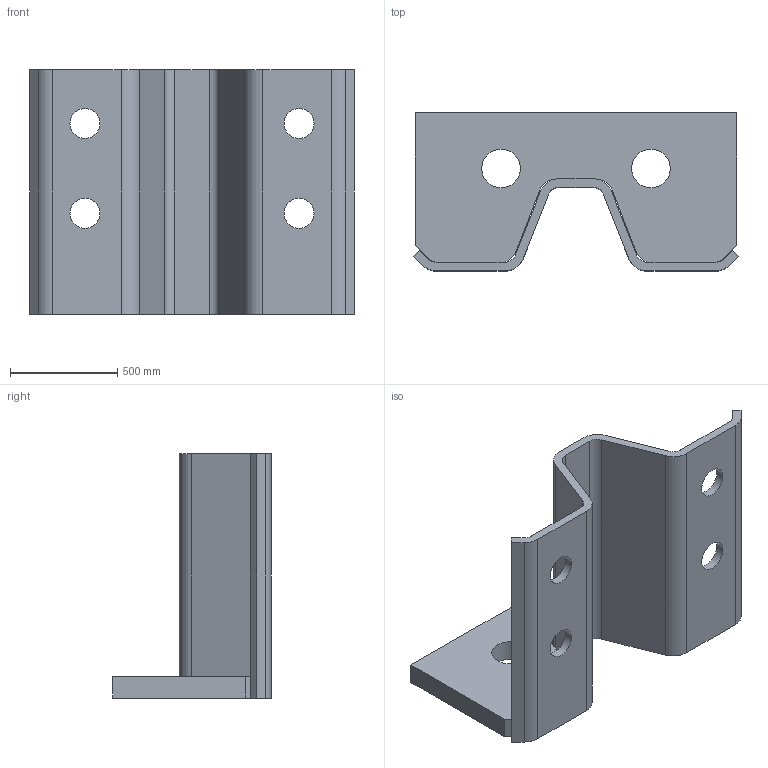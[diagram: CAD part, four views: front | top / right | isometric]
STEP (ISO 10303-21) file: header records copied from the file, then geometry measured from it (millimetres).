
FILE_DESCRIPTION(/* description */ (''),/* implementation_level */ '2;1');
FILE_NAME(/* name */ 'ZB125W70.stp',/* time_stamp */ '2024-03-12T15:31:47+01:00',/* author */ ('woriedl'),/* organization */ (''),/* preprocessor_version */ 'ST-DEVELOPER v20',/* originating_system */ 'AutoCAD Mechanical',/* authorisation */ '');
FILE_SCHEMA (('AUTOMOTIVE_DESIGN { 1 0 10303 214 3 1 1 }'));
Length unit declared in the file: centimetre
Products named in the file (2): Product; ZC140
Assembly tree (1 placements, depth 2):
  Product
    ZC140
Bounding box: 1517.2 x 740 x 1140 mm (x, y, z)
Volume: 171261905.4 mm3; surface area: 7026501.3 mm2
Topology: 2 solids, 2 shells, 54 faces, 150 edges, 100 vertices
Faces by surface type: plane 30, cylinder 24
Full cylindrical faces by diameter (mm): 140 x4, 180 x2
Entity records: 1810 total; most frequent: DIRECTION 312, CARTESIAN_POINT 307, ORIENTED_EDGE 300, EDGE_CURVE 150, AXIS2_PLACEMENT_3D 105, LINE 102, VECTOR 102, VERTEX_POINT 100
